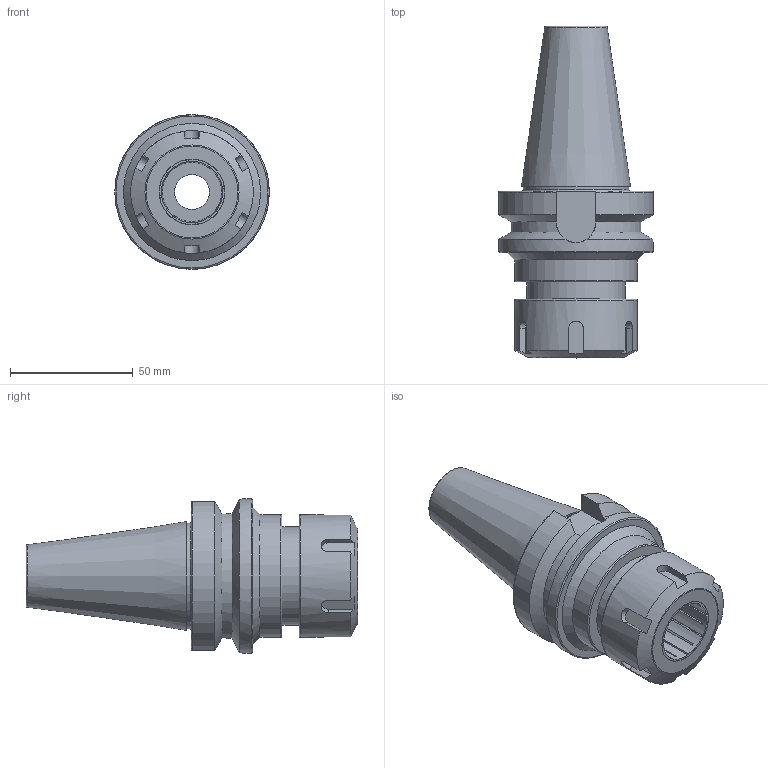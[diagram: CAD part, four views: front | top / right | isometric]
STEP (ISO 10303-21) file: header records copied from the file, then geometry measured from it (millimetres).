
FILE_DESCRIPTION(/* description */ (''),/* implementation_level */ '2;1');
FILE_NAME(/* name */ 'BT40-ER32-70L.stp',/* time_stamp */ '2025-08-19T11:31:11+03:00',/* author */ ('User'),/* organization */ (''),/* preprocessor_version */ 'ST-DEVELOPER v19.2',/* originating_system */ 'Autodesk Inventor 2024',/* authorisation */ '');
FILE_SCHEMA (('AUTOMOTIVE_DESIGN { 1 0 10303 214 3 1 1 }'));
Length unit declared in the file: millimetre
Products named in the file (4): BT40-ER25-100; BT40-FMB60-75; ER25-M; Цанга ER20 4 mm
Assembly tree (3 placements, depth 2):
  BT40-ER25-100
    BT40-FMB60-75
    ER25-M
    Цанга ER20 4 mm
Bounding box: 63 x 135.4 x 63 mm (x, y, z)
Volume: 162278.4 mm3; surface area: 47620.8 mm2
Topology: 3 solids, 3 shells, 209 faces, 594 edges, 398 vertices
Faces by surface type: plane 133, cylinder 40, cone 28, torus 8
Full cylindrical faces by diameter (mm): 14.2 x1, 17 x1, 24.13 x1, 25 x1, 31 x1, 38.5 x2, 40 x1, 43 x1, 50 x2, 63 x1
Entity records: 7139 total; most frequent: CARTESIAN_POINT 1586, ORIENTED_EDGE 1188, DIRECTION 1120, EDGE_CURVE 594, AXIS2_PLACEMENT_3D 425, VERTEX_POINT 398, LINE 270, VECTOR 270
